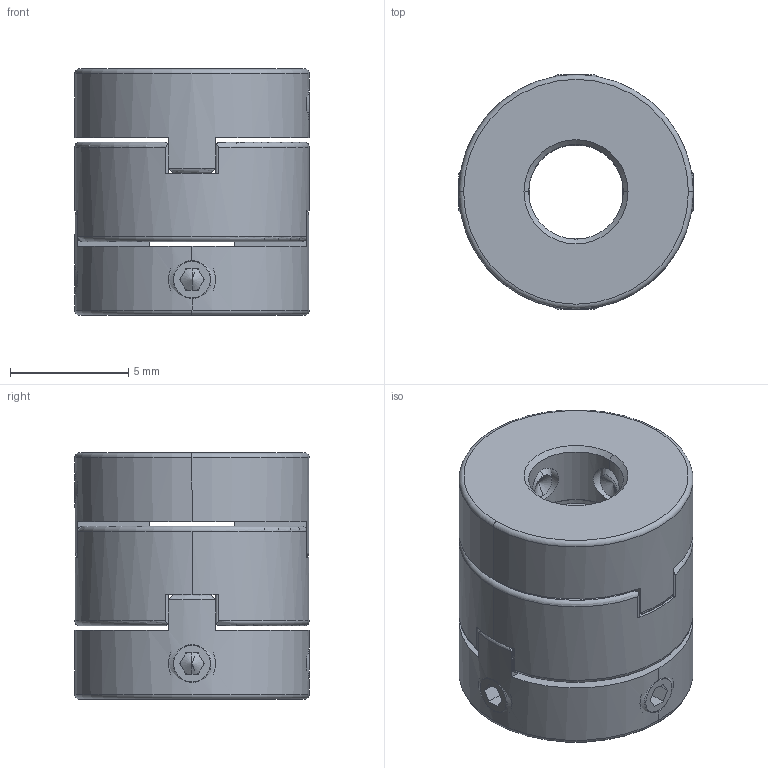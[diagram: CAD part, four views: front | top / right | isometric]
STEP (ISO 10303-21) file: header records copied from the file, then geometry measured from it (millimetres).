
FILE_DESCRIPTION (( 'STEP AP214' ), '1' );
FILE_NAME ('SOH-10 ASS''Y.STEP', '2016-02-05T05:28:17', ( '' ), ( '' ), 'SwSTEP 2.0', 'SolidWorks 2015', '' );
FILE_SCHEMA (( 'AUTOMOTIVE_DESIGN' ));
Length unit declared in the file: millimetre
Products named in the file (1): SOH-10 ASS''Y
Bounding box: 9.9 x 9.9 x 10.4 mm (x, y, z)
Surface area: 861.4 mm2 (no closed solid volume)
Topology: 0 solids, 11 shells, 135 faces, 394 edges, 253 vertices
Faces by surface type: plane 58, cylinder 32, cone 32, torus 13
Entity records: 6176 total; most frequent: CARTESIAN_POINT 1229, DIRECTION 724, ORIENTED_EDGE 660, EDGE_CURVE 386, AXIS2_PLACEMENT_3D 260, VERTEX_POINT 253, LINE 204, VECTOR 204
